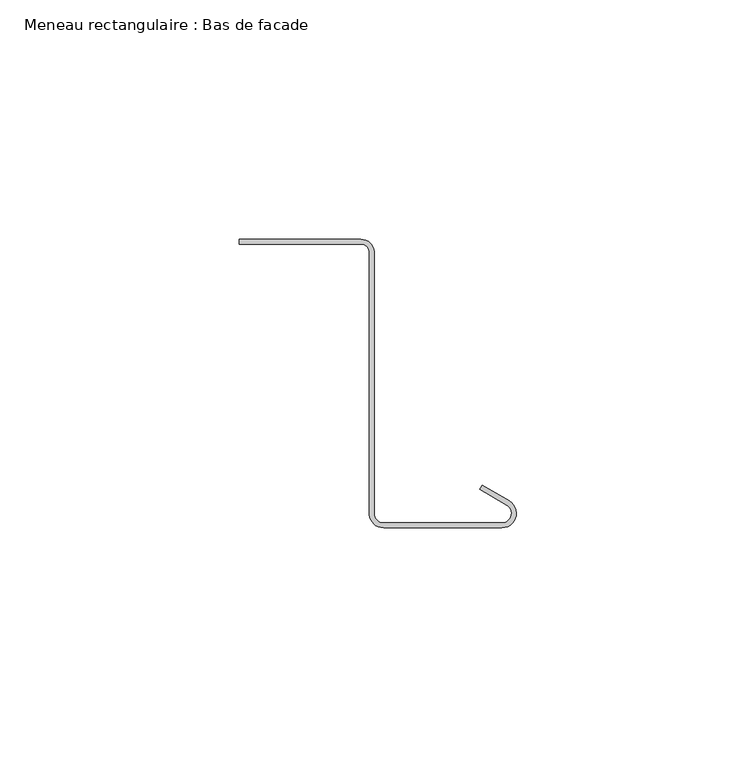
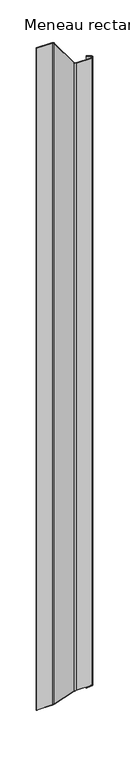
"""IFC4 building model written with IfcOpenShell, lengths in millimetres: member geometry, Meneau rectangulaire : Bas de facade."""

import ifcopenshell
import ifcopenshell.guid

model = None  # the IFC model being written
_history = None  # IfcOwnerHistory: only IFC2X3 demands one
_inside = {}  # id of a spatial element -> (the spatial element, [elements in it])
_under = {}  # id of a project, library or spatial element -> (it, [spatial elements below it])
_declared = {}  # id of a project -> (the project, [libraries it declares])
_typed = {}  # id of a type object -> (the type object, [elements of that type])
_made_of = {}  # id of a material, layer set ... -> (it, [elements and type objects made of it])


def new_model(schema):
    """Start an empty IFC model of exactly this schema.

    Asked for "IFC4X3", IfcOpenShell would pick the latest addendum, in which some entities
    have other attributes; the version numbers below select the first issue.
    IFC2X3 requires an IfcOwnerHistory on every rooted entity: one is made here for all.
    """
    global model, _history
    if schema == "IFC4X3":
        model = ifcopenshell.file(schema_version=(4, 3, 0, 0))
    else:
        model = ifcopenshell.file(schema=schema)
    _inside.clear()
    _under.clear()
    _declared.clear()
    _typed.clear()
    _made_of.clear()
    _history = None
    if model.schema == "IFC2X3":
        org = make("IfcOrganization", Name="unknown")
        user = make(
            "IfcPersonAndOrganization",
            ThePerson=make("IfcPerson", FamilyName="unknown"),
            TheOrganization=org,
        )
        app = make(
            "IfcApplication",
            ApplicationDeveloper=org,
            Version="unknown",
            ApplicationFullName="unknown",
            ApplicationIdentifier="unknown",
        )
        _history = make(
            "IfcOwnerHistory",
            OwningUser=user,
            OwningApplication=app,
            ChangeAction="ADDED",
            CreationDate=0,
        )
    return model


def make(cls, **values):
    """One entity of the class cls with the attributes given. An attribute that is None is left unset."""
    return model.create_entity(
        cls, **{name: value for name, value in values.items() if value is not None}
    )


def rooted(cls, **values):
    """An entity with a GlobalId (a new one), such as an element, a storey or a relation."""
    return make(cls, GlobalId=ifcopenshell.guid.new(), OwnerHistory=_history, **values)


def si_unit(unit_type, name, prefix=None):
    """IfcSIUnit, for example si_unit("LENGTHUNIT", "METRE", prefix="MILLI")."""
    return make("IfcSIUnit", UnitType=unit_type, Prefix=prefix, Name=name)


def assignment(units):
    """IfcUnitAssignment: the units of a project."""
    return None if units is None else make("IfcUnitAssignment", Units=units)


def point(xyz):
    """IfcCartesianPoint."""
    return None if xyz is None else make("IfcCartesianPoint", Coordinates=xyz)


def direction(xyz):
    """IfcDirection."""
    return None if xyz is None else make("IfcDirection", DirectionRatios=xyz)


def frame(location, z_axis=None, x_axis=None):
    """IfcAxis2Placement3D, a coordinate frame: its origin and axes. An axis left out is left unset."""
    return make(
        "IfcAxis2Placement3D",
        Location=point(location),
        Axis=direction(z_axis),
        RefDirection=direction(x_axis),
    )


def origin():
    """The frame at (0, 0, 0) with its axes left unset."""
    return frame((0.0, 0.0, 0.0))


def place(relative_to, where):
    """IfcLocalPlacement: puts the frame where relative to a parent placement (None: the world)."""
    return make(
        "IfcLocalPlacement", PlacementRelTo=relative_to, RelativePlacement=where
    )


def context(
    kind, dimensions, precision=None, world=None, true_north=None, identifier=None
):
    """IfcGeometricRepresentationContext, for example the 3D "Model" context."""
    return make(
        "IfcGeometricRepresentationContext",
        ContextIdentifier=identifier,
        ContextType=kind,
        CoordinateSpaceDimension=dimensions,
        Precision=precision,
        WorldCoordinateSystem=world,
        TrueNorth=true_north,
    )


def project(units=None, contexts=None):
    """IfcProject with its units and contexts."""
    return rooted(
        "IfcProject",
        Name="project",
        RepresentationContexts=contexts,
        UnitsInContext=assignment(units),
    )


def spatial(cls, under=None, at=None, **own):
    """A site, building, storey or space (cls), placed at a placement, below another one or the project."""
    s = rooted(cls, ObjectPlacement=at, **own)
    if under is not None:
        _under.setdefault(under.id(), (under, []))[1].append(s)
    return s


def polyline(points):
    """IfcPolyline through the points."""
    return make("IfcPolyline", Points=[point(p) for p in points])


def circle_curve(where, radius):
    """IfcCircle in the frame where."""
    return make("IfcCircle", Position=where, Radius=radius)


def ellipse_curve(where, semi_axis1, semi_axis2):
    """IfcEllipse in the frame where."""
    return make(
        "IfcEllipse", Position=where, SemiAxis1=semi_axis1, SemiAxis2=semi_axis2
    )


def shape(context_of_items, identifier, shape_type, items):
    """IfcShapeRepresentation: the items that make up one representation, for example the "Body"."""
    return make(
        "IfcShapeRepresentation",
        ContextOfItems=context_of_items,
        RepresentationIdentifier=identifier,
        RepresentationType=shape_type,
        Items=items,
    )


def source(mapping_origin, context_of_items, identifier, shape_type, items):
    """IfcRepresentationMap: a shape defined once, which mapped items show again and again."""
    return make(
        "IfcRepresentationMap",
        MappingOrigin=mapping_origin,
        MappedRepresentation=shape(context_of_items, identifier, shape_type, items),
    )


def transform(
    local_origin,
    x_axis=None,
    y_axis=None,
    z_axis=None,
    scale=None,
    scale2=None,
    scale3=None,
    uniform=True,
):
    """IfcCartesianTransformationOperator3D, or its non-uniform kind. x_axis, y_axis, z_axis: its Axis1, 2, 3."""
    if uniform:
        return make(
            "IfcCartesianTransformationOperator3D",
            Axis1=direction(x_axis),
            Axis2=direction(y_axis),
            LocalOrigin=point(local_origin),
            Scale=scale,
            Axis3=direction(z_axis),
        )
    return make(
        "IfcCartesianTransformationOperator3DnonUniform",
        Axis1=direction(x_axis),
        Axis2=direction(y_axis),
        LocalOrigin=point(local_origin),
        Scale=scale,
        Axis3=direction(z_axis),
        Scale2=scale2,
        Scale3=scale3,
    )


def mapped(mapping_source, mapping_target):
    """IfcMappedItem: shows the shape of a source again, moved by a transform."""
    return make(
        "IfcMappedItem", MappingSource=mapping_source, MappingTarget=mapping_target
    )


def made_of(thing, what):
    """Note that an element or type object is made of a material, layer set ...; save() writes the relation."""
    if what is not None:
        _made_of.setdefault(what.id(), (what, []))[1].append(thing)
    return thing


def element(
    cls,
    number,
    at=None,
    inside=None,
    cuts=None,
    type_object=None,
    material=None,
    context=None,
    identifier="Body",
    shape_type=None,
    held_by="IfcProductDefinitionShape",
    body=None,
    shapes=None,
    **own,
):
    """One element of the class cls, such as IfcWall. Its Tag is "e" and its number.

    at: its placement. inside: the storey or other place that contains it. cuts: it is an
    opening in that element (IfcRelVoidsElement). A single representation is given by context,
    identifier, shape_type and body (its items); several are given by shapes. held_by: the class
    of the entity that holds the representations. save() writes the other relations.
    """
    e = rooted(cls, Tag="e%d" % number, ObjectPlacement=at, **own)
    if body is not None:
        shapes = [shape(context, identifier, shape_type, body)]
    if shapes is not None:
        e.Representation = make(held_by, Representations=shapes)
    if inside is not None:
        _inside.setdefault(inside.id(), (inside, []))[1].append(e)
    if cuts is not None:
        rooted(
            "IfcRelVoidsElement", RelatingBuildingElement=cuts, RelatedOpeningElement=e
        )
    if type_object is not None:
        _typed.setdefault(type_object.id(), (type_object, []))[1].append(e)
    return made_of(e, material)


def aggregate(whole, parts):
    """IfcRelAggregates: a whole, such as a stair, and the parts it consists of."""
    return rooted("IfcRelAggregates", RelatingObject=whole, RelatedObjects=parts)


def save(model, path):
    """Write the relations noted so far, then the file.

    IfcRelAggregates (storeys below a building ...), IfcRelContainedInSpatialStructure (elements
    in a storey), IfcRelDefinesByType, IfcRelAssociatesMaterial and IfcRelDeclares: one each for
    every whole, place, type object, material and project.
    """
    for whole, parts in _under.values():
        aggregate(whole, parts)
    for where, things in _inside.values():
        rooted(
            "IfcRelContainedInSpatialStructure",
            RelatedElements=things,
            RelatingStructure=where,
        )
    for kind, things in _typed.values():
        rooted("IfcRelDefinesByType", RelatedObjects=things, RelatingType=kind)
    for what, things in _made_of.values():
        rooted("IfcRelAssociatesMaterial", RelatedObjects=things, RelatingMaterial=what)
    for by, libraries in _declared.values():
        rooted("IfcRelDeclares", RelatingContext=by, RelatedDefinitions=libraries)
    model.write(path)


def plane_surface(at):
    """IfcPlane: the flat surface through the origin of the frame at, square to its z axis."""
    return make("IfcPlane", Position=at)


def cylinder_surface(at, radius):
    """IfcCylindricalSurface: all points at the distance radius from the z axis of the frame at."""
    return make("IfcCylindricalSurface", Position=at, Radius=radius)


def revolved_surface(curve, axis_point, axis_direction):
    """IfcSurfaceOfRevolution: the curve turned about the line through axis_point along axis_direction."""
    return make(
        "IfcSurfaceOfRevolution",
        SweptCurve=make("IfcArbitraryOpenProfileDef", ProfileType="CURVE", Curve=curve),
        AxisPosition=make("IfcAxis1Placement", Location=point(axis_point), Axis=direction(axis_direction)),
    )


def advanced_brep(points, edges, surfaces, faces):
    """IfcAdvancedBrep: a solid bounded by faces that lie on surfaces and meet in shared edges.

    An edge is (start, end): straight between two places in points (the first is 0);
    or (start, end, curve); or (start, end, curve, False) where it runs against its curve.
    A face is (place in surfaces, loops), or (place, loops, False) where it looks against
    its surface's normal. A loop lists edges by number (the first is 1), with a minus sign
    where the edge is run from its end to its start. The first loop is the outer one.
    """
    corners = [point(p) for p in points]
    vertices = [make("IfcVertexPoint", VertexGeometry=c) for c in corners]
    made = []
    for start, end, *more in edges:
        made.append(
            make(
                "IfcEdgeCurve",
                EdgeStart=vertices[start],
                EdgeEnd=vertices[end],
                EdgeGeometry=more[0] if more else make("IfcPolyline", Points=[corners[start], corners[end]]),
                SameSense=more[1] if len(more) > 1 else True,
            )
        )
    hull = []
    for where, loops, *sense in faces:
        bounds = []
        for j, loop in enumerate(loops):
            ring = [make("IfcOrientedEdge", EdgeElement=made[abs(k) - 1], Orientation=k > 0) for k in loop]
            bounds.append(
                make(
                    "IfcFaceOuterBound" if j == 0 else "IfcFaceBound",
                    Bound=make("IfcEdgeLoop", EdgeList=ring),
                    Orientation=True,
                )
            )
        hull.append(make("IfcAdvancedFace", Bounds=bounds, FaceSurface=surfaces[where], SameSense=sense[0] if sense else True))
    return make("IfcAdvancedBrep", Outer=make("IfcClosedShell", CfsFaces=hull))


def meneau_rectangulaire_bas_de_facade_be514184(model_context):
    return source(origin(), model_context, "Body", "AdvancedBrep", [
        advanced_brep(
        [(-32.4584179, 2.9588923, 0.0), (-57.8548383, 2.9588923, 0.0), (-57.8548383, 1.9588923, 0.0), (-32.4584179, 1.9588923, 0.0), (-30.7239521, 0.4415475, 0.0), (-30.7239521, -54.522067, 0.0), (-27.735368, -57.2605998, 0.0), (-3.0, -57.2605998, 0.0), (-1.5, -51.6625235, 0.0), (-7.1638061, -48.3925235, 0.0), (-7.6638061, -49.258549, 0.0), (-2.0, -52.528549, 0.0), (-3.0, -56.2605998, 0.0), (-27.735368, -56.2605998, 0.0), (-29.7143802, -54.5495817, 0.0), (-29.7143802, 0.3898824, 0.0), (-32.4584179, 2.9588923, -1122.9588923), (-57.8548383, 2.9588923, -1122.9588923), (-57.8548383, 1.9588923, -1121.9588923), (-32.4584179, 1.9588923, -1121.9588923), (-30.7239521, 0.4415475, -1120.4415475), (-30.7239521, -54.522067, -1065.477933), (-27.735368, -57.2605998, -1062.7394002), (-3.0, -57.2605998, -1062.7394002), (-1.5, -51.6625235, -1068.3374765), (-7.1638061, -48.3925235, -1071.6074765), (-7.6638061, -49.258549, -1070.741451), (-2.0, -52.528549, -1067.471451), (-3.0, -56.2605998, -1063.7394002), (-27.735368, -56.2605998, -1063.7394002), (-29.7143802, -54.5495817, -1065.4504183), (-29.7143802, 0.3898824, -1120.3898824)],
        [
            (0, 1),
            (1, 2),
            (2, 3),
            (3, 4, circle_curve(frame((-32.4584179, 0.2088923, 0.0), z_axis=(0.0, 0.0, -1.0), x_axis=(0.0, 1.0, 0.0)), 1.75)),
            (4, 5),
            (5, 6, circle_curve(frame((-27.735368, -54.2605998, 0.0), z_axis=(0.0, 0.0, 1.0), x_axis=(-0.9961946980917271, -0.08715574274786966, 0.0)), 3.0)),
            (6, 7),
            (7, 8, circle_curve(frame((-3.0, -54.2605998, 0.0), z_axis=(0.0, 0.0, 1.0), x_axis=(0.0, -1.0, 0.0)), 3.0)),
            (8, 9),
            (9, 10),
            (10, 11),
            (11, 12, circle_curve(frame((-3.0, -54.2605998, 0.0), z_axis=(0.0, 0.0, -1.0), x_axis=(0.0, -1.0, 0.0)), 2.0)),
            (12, 13),
            (13, 14, circle_curve(frame((-27.735368, -54.2605998, 0.0), z_axis=(0.0, 0.0, -1.0), x_axis=(-0.9961946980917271, -0.08715574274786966, 0.0)), 2.0)),
            (14, 15),
            (15, 0, circle_curve(frame((-32.4584179, 0.2088923, 0.0), z_axis=(0.0, 0.0, 1.0), x_axis=(0.0, 1.0, 0.0)), 2.75)),
            (0, 16),
            (16, 17),
            (17, 1),
            (17, 18),
            (18, 2),
            (18, 19),
            (19, 3),
            (19, 20, ellipse_curve(frame((-32.4584179, 0.2088923, -1120.2088923), z_axis=(0.0, -0.7071067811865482, -0.7071067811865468), x_axis=(0.0, 0.7071067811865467, -0.7071067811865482)), 2.4748737, 1.75)),
            (20, 4),
            (20, 21),
            (21, 5),
            (21, 22, ellipse_curve(frame((-27.735368, -54.2605998, -1065.7394002), z_axis=(0.0, 0.7071067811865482, 0.7071067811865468), x_axis=(0.0, -0.7071067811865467, 0.7071067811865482)), 4.2426407, 3.0)),
            (22, 6),
            (22, 23),
            (23, 7),
            (23, 24, ellipse_curve(frame((-3.0, -54.2605998, -1065.7394002), z_axis=(0.0, 0.7071067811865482, 0.7071067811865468), x_axis=(0.0, -0.7071067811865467, 0.7071067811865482)), 4.2426407, 3.0)),
            (24, 8),
            (24, 25),
            (25, 9),
            (25, 26),
            (26, 10),
            (26, 27),
            (27, 11),
            (27, 28, ellipse_curve(frame((-3.0, -54.2605998, -1065.7394002), z_axis=(0.0, -0.7071067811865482, -0.7071067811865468), x_axis=(0.0, 0.7071067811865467, -0.7071067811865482)), 2.8284271, 2.0)),
            (28, 12),
            (28, 29),
            (29, 13),
            (29, 30, ellipse_curve(frame((-27.735368, -54.2605998, -1065.7394002), z_axis=(0.0, -0.7071067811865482, -0.7071067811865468), x_axis=(0.0, 0.7071067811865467, -0.7071067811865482)), 2.8284271, 2.0)),
            (30, 14),
            (30, 31),
            (31, 15),
            (31, 16, ellipse_curve(frame((-32.4584179, 0.2088923, -1120.2088923), z_axis=(0.0, 0.7071067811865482, 0.7071067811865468), x_axis=(0.0, -0.7071067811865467, 0.7071067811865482)), 3.8890873, 2.75)),
        ],
        [
            plane_surface(frame((0.0, -63.8351035, 0.0), z_axis=(0.0, 0.0, 1.0), x_axis=(-1.0, 0.0, 0.0))),
            plane_surface(frame((-32.4584179, 2.9588923, 0.0), z_axis=(0.0, 1.0, 0.0), x_axis=(0.0, 0.0, -1.0))),
            plane_surface(frame((-57.8548383, 2.9588923, 0.0), z_axis=(-1.0, 0.0, 0.0), x_axis=(0.0, 0.0, -1.0))),
            plane_surface(frame((-57.8548383, 1.9588923, 0.0), z_axis=(0.0, -1.0, 0.0), x_axis=(0.0, 0.0, -1.0))),
            revolved_surface(polyline([(-32.4584179, 1.9588923, -1121.9588923), (-32.4584179, 1.9588923, 0.0)]), (-32.4584179, 0.2088923, 0.0), (0.0, 0.0, -1.0)),
            plane_surface(frame((-30.7239521, 0.4415475, 0.0), z_axis=(-1.0, 0.0, 0.0), x_axis=(0.0, 0.0, -1.0))),
            cylinder_surface(frame((-27.735368, -54.2605998, 0.0), z_axis=(0.0, 0.0, 1.0000000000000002), x_axis=(-0.9961946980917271, -0.08715574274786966, 0.0)), 3.0),
            plane_surface(frame((-27.735368, -57.2605998, 0.0), z_axis=(0.0, -1.0, 0.0), x_axis=(0.0, 0.0, -1.0))),
            cylinder_surface(frame((-3.0, -54.2605998, 0.0), z_axis=(0.0, 0.0, 1.0), x_axis=(0.0, -1.0, 0.0)), 3.0),
            plane_surface(frame((-1.5, -51.6625235, 0.0), z_axis=(0.5000000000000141, 0.8660254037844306, 0.0), x_axis=(0.0, 0.0, -1.0))),
            plane_surface(frame((-7.1638061, -48.3925235, 0.0), z_axis=(-0.8660254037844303, 0.5000000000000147, 0.0), x_axis=(0.0, 0.0, -1.0))),
            plane_surface(frame((-7.6638061, -49.258549, 0.0), z_axis=(-0.500000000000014, -0.8660254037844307, 0.0), x_axis=(0.0, 0.0, -1.0))),
            revolved_surface(polyline([(-3.0, -56.2605998, -1067.7394001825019), (-3.0, -56.2605998, 0.0)]), (-3.0, -54.2605998, 0.0), (0.0, 0.0, -1.0)),
            plane_surface(frame((-3.0, -56.2605998, 0.0), z_axis=(0.0, 1.0, 0.0), x_axis=(0.0, 0.0, -1.0))),
            revolved_surface(polyline([(-29.727757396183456, -54.434911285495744, -1067.7394001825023), (-29.727757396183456, -54.434911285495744, 0.0)]), (-27.735368, -54.2605998, 0.0), (0.0, 0.0, -1.0000000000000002)),
            plane_surface(frame((-29.7143802, -54.5495817, 0.0), z_axis=(1.0, 0.0, 0.0), x_axis=(0.0, 0.0, -1.0))),
            cylinder_surface(frame((-32.4584179, 0.2088923, 0.0), z_axis=(0.0, 0.0, 1.0), x_axis=(0.0, 1.0, 0.0)), 2.75),
            plane_surface(frame((304.8, 0.0, -1120.0), z_axis=(0.0, -0.7071067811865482, -0.7071067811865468), x_axis=(0.0, -0.7071067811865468, 0.7071067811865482))),
        ],
        [
            (0, [[1, 2, 3, 4, 5, 6, 7, 8, 9, 10, 11, 12, 13, 14, 15, 16]]),
            (1, [[-1, 17, 18, 19]]),
            (2, [[-2, -19, 20, 21]]),
            (3, [[-3, -21, 22, 23]]),
            (4, [[-4, -23, 24, 25]]),
            (5, [[-5, -25, 26, 27]]),
            (6, [[-6, -27, 28, 29]]),
            (7, [[-7, -29, 30, 31]]),
            (8, [[-8, -31, 32, 33]]),
            (9, [[-9, -33, 34, 35]]),
            (10, [[-10, -35, 36, 37]]),
            (11, [[-11, -37, 38, 39]]),
            (12, [[-12, -39, 40, 41]]),
            (13, [[-13, -41, 42, 43]]),
            (14, [[-14, -43, 44, 45]]),
            (15, [[-15, -45, 46, 47]]),
            (16, [[-16, -47, 48, -17]]),
            (17, [[-48, -46, -44, -42, -40, -38, -36, -34, -32, -30, -28, -26, -24, -22, -20, -18]]),
        ],
    ),
    ])


if __name__ == "__main__":
    model = new_model("IFC4")
    model_context = context("Model", 3, world=origin())
    ifc_project = project(units=[si_unit("LENGTHUNIT", "METRE", prefix="MILLI")], contexts=[model_context])
    site = spatial("IfcSite", under=ifc_project)
    building = spatial("IfcBuilding", under=site)
    placement = place(None, origin())
    meneau_rectangulaire_bas_de_facade_shape = meneau_rectangulaire_bas_de_facade_be514184(model_context)
    element("IfcMember", 1, ObjectType="Meneau rectangulaire : Bas de facade", at=placement, inside=building, context=model_context, shape_type="MappedRepresentation", body=[
        mapped(meneau_rectangulaire_bas_de_facade_shape, transform((0.0, 0.0, 0.0), x_axis=(1.0, 0.0, 0.0), y_axis=(0.0, 1.0, 0.0), z_axis=(0.0, 0.0, 1.0))),
    ])
    save(model, "model.ifc")
